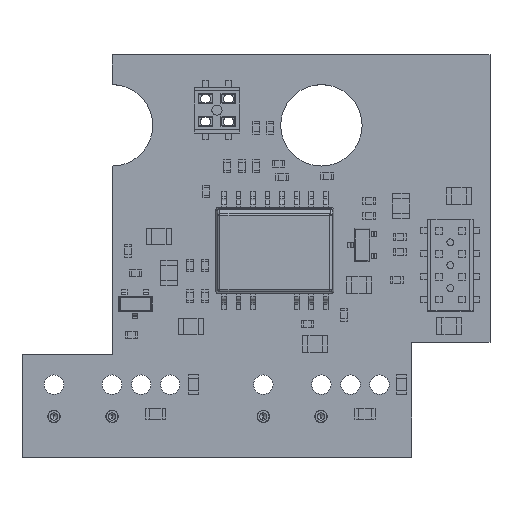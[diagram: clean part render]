
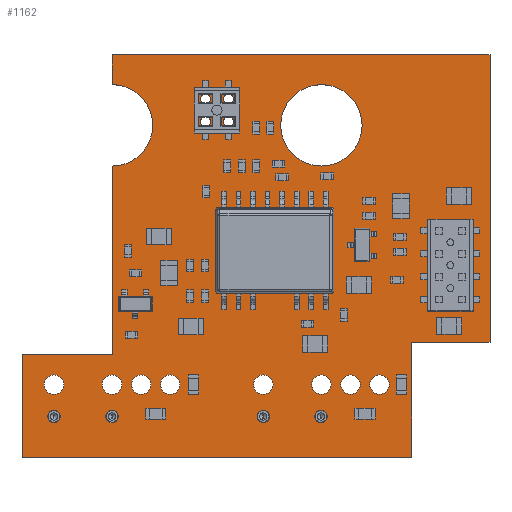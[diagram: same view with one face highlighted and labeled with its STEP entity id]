
A CAD part, top view. The second image highlights one B-rep face of the part: STEP entity #1162.
In plain terms, the highlighted planar face has unit normal (0, 0, 1).
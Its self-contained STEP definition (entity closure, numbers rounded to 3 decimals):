
#227 = VERTEX_POINT('',#228);
#228 = CARTESIAN_POINT('',(0.,0.,0.));
#234 = EDGE_CURVE('',#227,#235,#237,.T.);
#235 = VERTEX_POINT('',#236);
#236 = CARTESIAN_POINT('',(0.,9.017,0.));
#237 = LINE('',#238,#239);
#238 = CARTESIAN_POINT('',(0.,0.,0.));
#239 = VECTOR('',#240,1.);
#240 = DIRECTION('',(0.,1.,0.));
#265 = EDGE_CURVE('',#235,#266,#268,.T.);
#266 = VERTEX_POINT('',#267);
#267 = CARTESIAN_POINT('',(7.874,9.017,0.));
#268 = LINE('',#269,#270);
#269 = CARTESIAN_POINT('',(0.,9.017,0.));
#270 = VECTOR('',#271,1.);
#271 = DIRECTION('',(1.,0.,0.));
#296 = EDGE_CURVE('',#266,#297,#299,.T.);
#297 = VERTEX_POINT('',#298);
#298 = CARTESIAN_POINT('',(7.874,25.451,0.));
#299 = LINE('',#300,#301);
#300 = CARTESIAN_POINT('',(7.874,9.017,0.));
#301 = VECTOR('',#302,1.);
#302 = DIRECTION('',(0.,1.,0.));
#327 = EDGE_CURVE('',#297,#328,#330,.T.);
#328 = VERTEX_POINT('',#329);
#329 = CARTESIAN_POINT('',(7.874,32.563,0.));
#330 = CIRCLE('',#331,3.556);
#331 = AXIS2_PLACEMENT_3D('',#332,#333,#334);
#332 = CARTESIAN_POINT('',(7.874,29.007,0.));
#333 = DIRECTION('',(0.,0.,1.));
#334 = DIRECTION('',(0.,-1.,0.));
#360 = EDGE_CURVE('',#328,#361,#363,.T.);
#361 = VERTEX_POINT('',#362);
#362 = CARTESIAN_POINT('',(7.874,35.179,0.));
#363 = LINE('',#364,#365);
#364 = CARTESIAN_POINT('',(7.874,32.563,0.));
#365 = VECTOR('',#366,1.);
#366 = DIRECTION('',(0.,1.,0.));
#391 = EDGE_CURVE('',#361,#392,#394,.T.);
#392 = VERTEX_POINT('',#393);
#393 = CARTESIAN_POINT('',(40.894,35.179,0.));
#394 = LINE('',#395,#396);
#395 = CARTESIAN_POINT('',(7.874,35.179,0.));
#396 = VECTOR('',#397,1.);
#397 = DIRECTION('',(1.,0.,0.));
#422 = EDGE_CURVE('',#392,#423,#425,.T.);
#423 = VERTEX_POINT('',#424);
#424 = CARTESIAN_POINT('',(40.894,10.033,0.));
#425 = LINE('',#426,#427);
#426 = CARTESIAN_POINT('',(40.894,35.179,0.));
#427 = VECTOR('',#428,1.);
#428 = DIRECTION('',(0.,-1.,0.));
#453 = EDGE_CURVE('',#423,#454,#456,.T.);
#454 = VERTEX_POINT('',#455);
#455 = CARTESIAN_POINT('',(34.036,10.033,0.));
#456 = LINE('',#457,#458);
#457 = CARTESIAN_POINT('',(40.894,10.033,0.));
#458 = VECTOR('',#459,1.);
#459 = DIRECTION('',(-1.,0.,0.));
#484 = EDGE_CURVE('',#454,#485,#487,.T.);
#485 = VERTEX_POINT('',#486);
#486 = CARTESIAN_POINT('',(34.036,0.,0.));
#487 = LINE('',#488,#489);
#488 = CARTESIAN_POINT('',(34.036,10.033,0.));
#489 = VECTOR('',#490,1.);
#490 = DIRECTION('',(0.,-1.,0.));
#515 = EDGE_CURVE('',#485,#227,#516,.T.);
#516 = LINE('',#517,#518);
#517 = CARTESIAN_POINT('',(34.036,0.,0.));
#518 = VECTOR('',#519,1.);
#519 = DIRECTION('',(-1.,0.,0.));
#539 = VERTEX_POINT('',#540);
#540 = CARTESIAN_POINT('',(3.34,3.556,0.));
#546 = EDGE_CURVE('',#539,#539,#547,.T.);
#547 = CIRCLE('',#548,0.546);
#548 = AXIS2_PLACEMENT_3D('',#549,#550,#551);
#549 = CARTESIAN_POINT('',(2.794,3.556,0.));
#550 = DIRECTION('',(0.,0.,1.));
#551 = DIRECTION('',(1.,0.,0.));
#572 = VERTEX_POINT('',#573);
#573 = CARTESIAN_POINT('',(3.645,6.35,0.));
#579 = EDGE_CURVE('',#572,#572,#580,.T.);
#580 = CIRCLE('',#581,0.851);
#581 = AXIS2_PLACEMENT_3D('',#582,#583,#584);
#582 = CARTESIAN_POINT('',(2.794,6.35,0.));
#583 = DIRECTION('',(0.,0.,1.));
#584 = DIRECTION('',(1.,0.,0.));
#605 = VERTEX_POINT('',#606);
#606 = CARTESIAN_POINT('',(8.42,3.556,0.));
#612 = EDGE_CURVE('',#605,#605,#613,.T.);
#613 = CIRCLE('',#614,0.546);
#614 = AXIS2_PLACEMENT_3D('',#615,#616,#617);
#615 = CARTESIAN_POINT('',(7.874,3.556,0.));
#616 = DIRECTION('',(0.,0.,1.));
#617 = DIRECTION('',(1.,0.,0.));
#638 = VERTEX_POINT('',#639);
#639 = CARTESIAN_POINT('',(8.725,6.35,0.));
#645 = EDGE_CURVE('',#638,#638,#646,.T.);
#646 = CIRCLE('',#647,0.851);
#647 = AXIS2_PLACEMENT_3D('',#648,#649,#650);
#648 = CARTESIAN_POINT('',(7.874,6.35,0.));
#649 = DIRECTION('',(0.,0.,1.));
#650 = DIRECTION('',(1.,0.,0.));
#671 = VERTEX_POINT('',#672);
#672 = CARTESIAN_POINT('',(13.805,6.35,0.));
#678 = EDGE_CURVE('',#671,#671,#679,.T.);
#679 = CIRCLE('',#680,0.851);
#680 = AXIS2_PLACEMENT_3D('',#681,#682,#683);
#681 = CARTESIAN_POINT('',(12.954,6.35,0.));
#682 = DIRECTION('',(0.,0.,1.));
#683 = DIRECTION('',(1.,0.,0.));
#704 = VERTEX_POINT('',#705);
#705 = CARTESIAN_POINT('',(11.265,6.35,0.));
#711 = EDGE_CURVE('',#704,#704,#712,.T.);
#712 = CIRCLE('',#713,0.851);
#713 = AXIS2_PLACEMENT_3D('',#714,#715,#716);
#714 = CARTESIAN_POINT('',(10.414,6.35,0.));
#715 = DIRECTION('',(0.,0.,1.));
#716 = DIRECTION('',(1.,0.,0.));
#737 = VERTEX_POINT('',#738);
#738 = CARTESIAN_POINT('',(16.464,29.33,0.));
#744 = EDGE_CURVE('',#737,#737,#745,.T.);
#745 = CIRCLE('',#746,0.43);
#746 = AXIS2_PLACEMENT_3D('',#747,#748,#749);
#747 = CARTESIAN_POINT('',(16.034,29.33,0.));
#748 = DIRECTION('',(0.,0.,1.));
#749 = DIRECTION('',(1.,0.,0.));
#770 = VERTEX_POINT('',#771);
#771 = CARTESIAN_POINT('',(16.464,31.33,0.));
#777 = EDGE_CURVE('',#770,#770,#778,.T.);
#778 = CIRCLE('',#779,0.43);
#779 = AXIS2_PLACEMENT_3D('',#780,#781,#782);
#780 = CARTESIAN_POINT('',(16.034,31.33,0.));
#781 = DIRECTION('',(0.,0.,1.));
#782 = DIRECTION('',(1.,0.,0.));
#803 = VERTEX_POINT('',#804);
#804 = CARTESIAN_POINT('',(21.628,3.556,0.));
#810 = EDGE_CURVE('',#803,#803,#811,.T.);
#811 = CIRCLE('',#812,0.546);
#812 = AXIS2_PLACEMENT_3D('',#813,#814,#815);
#813 = CARTESIAN_POINT('',(21.082,3.556,0.));
#814 = DIRECTION('',(0.,0.,1.));
#815 = DIRECTION('',(1.,0.,0.));
#836 = VERTEX_POINT('',#837);
#837 = CARTESIAN_POINT('',(21.933,6.35,0.));
#843 = EDGE_CURVE('',#836,#836,#844,.T.);
#844 = CIRCLE('',#845,0.851);
#845 = AXIS2_PLACEMENT_3D('',#846,#847,#848);
#846 = CARTESIAN_POINT('',(21.082,6.35,0.));
#847 = DIRECTION('',(0.,0.,1.));
#848 = DIRECTION('',(1.,0.,0.));
#869 = VERTEX_POINT('',#870);
#870 = CARTESIAN_POINT('',(26.671,3.556,0.));
#876 = EDGE_CURVE('',#869,#869,#877,.T.);
#877 = CIRCLE('',#878,0.546);
#878 = AXIS2_PLACEMENT_3D('',#879,#880,#881);
#879 = CARTESIAN_POINT('',(26.125,3.556,0.));
#880 = DIRECTION('',(0.,0.,1.));
#881 = DIRECTION('',(1.,0.,0.));
#902 = VERTEX_POINT('',#903);
#903 = CARTESIAN_POINT('',(32.093,6.35,0.));
#909 = EDGE_CURVE('',#902,#902,#910,.T.);
#910 = CIRCLE('',#911,0.851);
#911 = AXIS2_PLACEMENT_3D('',#912,#913,#914);
#912 = CARTESIAN_POINT('',(31.242,6.35,0.));
#913 = DIRECTION('',(0.,0.,1.));
#914 = DIRECTION('',(1.,0.,0.));
#935 = VERTEX_POINT('',#936);
#936 = CARTESIAN_POINT('',(18.464,29.33,0.));
#942 = EDGE_CURVE('',#935,#935,#943,.T.);
#943 = CIRCLE('',#944,0.43);
#944 = AXIS2_PLACEMENT_3D('',#945,#946,#947);
#945 = CARTESIAN_POINT('',(18.034,29.33,0.));
#946 = DIRECTION('',(0.,0.,1.));
#947 = DIRECTION('',(1.,0.,0.));
#968 = VERTEX_POINT('',#969);
#969 = CARTESIAN_POINT('',(18.464,31.33,0.));
#975 = EDGE_CURVE('',#968,#968,#976,.T.);
#976 = CIRCLE('',#977,0.43);
#977 = AXIS2_PLACEMENT_3D('',#978,#979,#980);
#978 = CARTESIAN_POINT('',(18.034,31.33,0.));
#979 = DIRECTION('',(0.,0.,1.));
#980 = DIRECTION('',(1.,0.,0.));
#1001 = VERTEX_POINT('',#1002);
#1002 = CARTESIAN_POINT('',(27.013,6.35,0.));
#1008 = EDGE_CURVE('',#1001,#1001,#1009,.T.);
#1009 = CIRCLE('',#1010,0.851);
#1010 = AXIS2_PLACEMENT_3D('',#1011,#1012,#1013);
#1011 = CARTESIAN_POINT('',(26.162,6.35,0.));
#1012 = DIRECTION('',(0.,0.,1.));
#1013 = DIRECTION('',(1.,0.,0.));
#1034 = VERTEX_POINT('',#1035);
#1035 = CARTESIAN_POINT('',(29.718,29.007,0.));
#1041 = EDGE_CURVE('',#1034,#1034,#1042,.T.);
#1042 = CIRCLE('',#1043,3.556);
#1043 = AXIS2_PLACEMENT_3D('',#1044,#1045,#1046);
#1044 = CARTESIAN_POINT('',(26.162,29.007,0.));
#1045 = DIRECTION('',(0.,0.,1.));
#1046 = DIRECTION('',(1.,0.,0.));
#1067 = VERTEX_POINT('',#1068);
#1068 = CARTESIAN_POINT('',(29.553,6.35,0.));
#1074 = EDGE_CURVE('',#1067,#1067,#1075,.T.);
#1075 = CIRCLE('',#1076,0.851);
#1076 = AXIS2_PLACEMENT_3D('',#1077,#1078,#1079);
#1077 = CARTESIAN_POINT('',(28.702,6.35,0.));
#1078 = DIRECTION('',(0.,0.,1.));
#1079 = DIRECTION('',(1.,0.,0.));
#1162 = ADVANCED_FACE('',(#1163,#1175,#1178,#1181,#1184,#1187,#1190,
    #1193,#1196,#1199,#1202,#1205,#1208,#1211,#1214,#1217,#1220,#1223),
  #1226,.T.);
#1163 = FACE_BOUND('',#1164,.F.);
#1164 = EDGE_LOOP('',(#1165,#1166,#1167,#1168,#1169,#1170,#1171,#1172,
    #1173,#1174));
#1165 = ORIENTED_EDGE('',*,*,#234,.T.);
#1166 = ORIENTED_EDGE('',*,*,#265,.T.);
#1167 = ORIENTED_EDGE('',*,*,#296,.T.);
#1168 = ORIENTED_EDGE('',*,*,#327,.T.);
#1169 = ORIENTED_EDGE('',*,*,#360,.T.);
#1170 = ORIENTED_EDGE('',*,*,#391,.T.);
#1171 = ORIENTED_EDGE('',*,*,#422,.T.);
#1172 = ORIENTED_EDGE('',*,*,#453,.T.);
#1173 = ORIENTED_EDGE('',*,*,#484,.T.);
#1174 = ORIENTED_EDGE('',*,*,#515,.T.);
#1175 = FACE_BOUND('',#1176,.T.);
#1176 = EDGE_LOOP('',(#1177));
#1177 = ORIENTED_EDGE('',*,*,#546,.F.);
#1178 = FACE_BOUND('',#1179,.T.);
#1179 = EDGE_LOOP('',(#1180));
#1180 = ORIENTED_EDGE('',*,*,#579,.F.);
#1181 = FACE_BOUND('',#1182,.T.);
#1182 = EDGE_LOOP('',(#1183));
#1183 = ORIENTED_EDGE('',*,*,#612,.F.);
#1184 = FACE_BOUND('',#1185,.T.);
#1185 = EDGE_LOOP('',(#1186));
#1186 = ORIENTED_EDGE('',*,*,#645,.F.);
#1187 = FACE_BOUND('',#1188,.T.);
#1188 = EDGE_LOOP('',(#1189));
#1189 = ORIENTED_EDGE('',*,*,#678,.F.);
#1190 = FACE_BOUND('',#1191,.T.);
#1191 = EDGE_LOOP('',(#1192));
#1192 = ORIENTED_EDGE('',*,*,#711,.F.);
#1193 = FACE_BOUND('',#1194,.T.);
#1194 = EDGE_LOOP('',(#1195));
#1195 = ORIENTED_EDGE('',*,*,#744,.F.);
#1196 = FACE_BOUND('',#1197,.T.);
#1197 = EDGE_LOOP('',(#1198));
#1198 = ORIENTED_EDGE('',*,*,#777,.F.);
#1199 = FACE_BOUND('',#1200,.T.);
#1200 = EDGE_LOOP('',(#1201));
#1201 = ORIENTED_EDGE('',*,*,#810,.F.);
#1202 = FACE_BOUND('',#1203,.T.);
#1203 = EDGE_LOOP('',(#1204));
#1204 = ORIENTED_EDGE('',*,*,#843,.F.);
#1205 = FACE_BOUND('',#1206,.T.);
#1206 = EDGE_LOOP('',(#1207));
#1207 = ORIENTED_EDGE('',*,*,#876,.F.);
#1208 = FACE_BOUND('',#1209,.T.);
#1209 = EDGE_LOOP('',(#1210));
#1210 = ORIENTED_EDGE('',*,*,#909,.F.);
#1211 = FACE_BOUND('',#1212,.T.);
#1212 = EDGE_LOOP('',(#1213));
#1213 = ORIENTED_EDGE('',*,*,#942,.F.);
#1214 = FACE_BOUND('',#1215,.T.);
#1215 = EDGE_LOOP('',(#1216));
#1216 = ORIENTED_EDGE('',*,*,#975,.F.);
#1217 = FACE_BOUND('',#1218,.T.);
#1218 = EDGE_LOOP('',(#1219));
#1219 = ORIENTED_EDGE('',*,*,#1008,.F.);
#1220 = FACE_BOUND('',#1221,.T.);
#1221 = EDGE_LOOP('',(#1222));
#1222 = ORIENTED_EDGE('',*,*,#1041,.F.);
#1223 = FACE_BOUND('',#1224,.T.);
#1224 = EDGE_LOOP('',(#1225));
#1225 = ORIENTED_EDGE('',*,*,#1074,.F.);
#1226 = PLANE('',#1227);
#1227 = AXIS2_PLACEMENT_3D('',#1228,#1229,#1230);
#1228 = CARTESIAN_POINT('',(0.,0.,0.));
#1229 = DIRECTION('',(0.,0.,1.));
#1230 = DIRECTION('',(1.,0.,0.));
